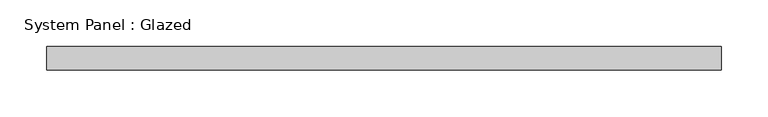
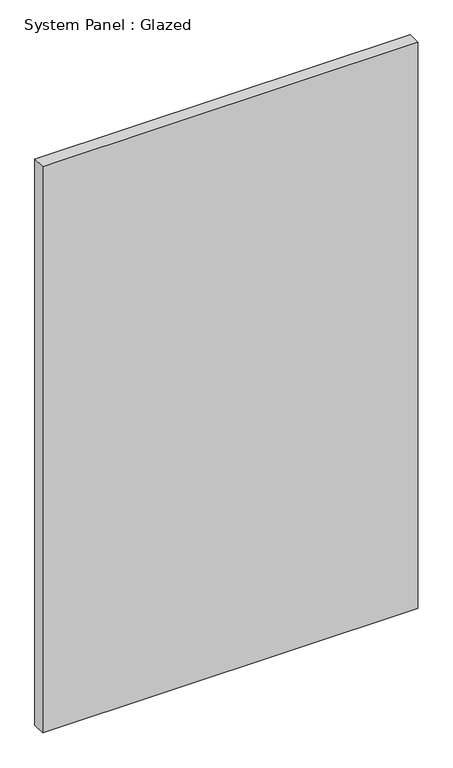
"""IFC4 building model written with IfcOpenShell, lengths in millimetres: plate geometry, System Panel : Glazed."""

from ifc_helpers import new_model, si_unit, origin, origin_with_axes, place, context, project, spatial, polyline, outline, extrude, source, transform, mapped, element, save


def system_panel_glazed_28aac04d(model_context):
    return source(origin(), model_context, "Body", "SweptSolid", [
        extrude(outline(polyline([(361.95, 19.05), (-361.95, 19.05), (-361.95, 44.45), (361.95, 44.45), (361.95, 19.05)])), origin_with_axes(), (0.0, 0.0, 1.0), 1155.7),
    ])


if __name__ == "__main__":
    model = new_model("IFC4")
    model_context = context("Model", 3, world=origin())
    ifc_project = project(units=[si_unit("LENGTHUNIT", "METRE", prefix="MILLI")], contexts=[model_context])
    site = spatial("IfcSite", under=ifc_project)
    building = spatial("IfcBuilding", under=site)
    placement = place(None, origin())
    system_panel_glazed_shape = system_panel_glazed_28aac04d(model_context)
    element("IfcPlate", 1, ObjectType="System Panel : Glazed", at=placement, inside=building, context=model_context, shape_type="MappedRepresentation", body=[
        mapped(system_panel_glazed_shape, transform((0.0, 0.0, 0.0), x_axis=(1.0, 0.0, 0.0), y_axis=(0.0, 1.0, 0.0), z_axis=(0.0, 0.0, 1.0))),
    ])
    save(model, "model.ifc")
